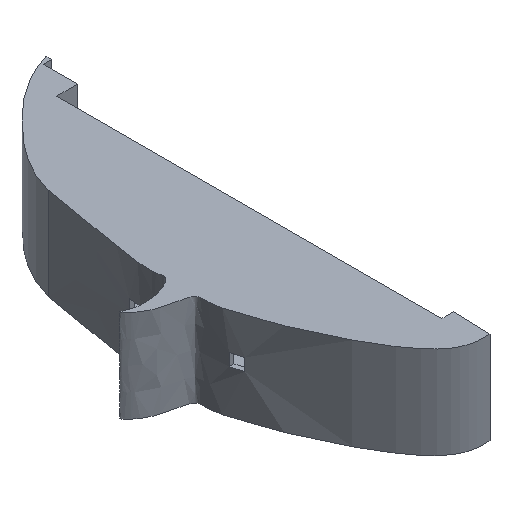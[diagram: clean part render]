
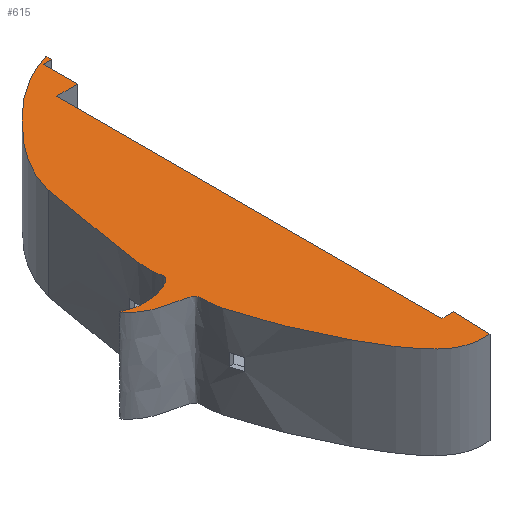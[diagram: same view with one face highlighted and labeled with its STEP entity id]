
A CAD part, isometric view. The second image highlights one B-rep face of the part: STEP entity #615.
In plain terms, the highlighted planar face has unit normal (0, 0, 1).
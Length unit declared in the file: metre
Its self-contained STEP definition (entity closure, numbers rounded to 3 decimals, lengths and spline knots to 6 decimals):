
#27=PLANE('',#659);
#60=LINE('',#1259,#125);
#61=LINE('',#1263,#126);
#65=LINE('',#1272,#130);
#68=LINE('',#1278,#133);
#71=LINE('',#1314,#136);
#74=LINE('',#1320,#139);
#81=LINE('',#1333,#146);
#125=VECTOR('',#700,1.);
#126=VECTOR('',#705,1.);
#130=VECTOR('',#711,1.);
#133=VECTOR('',#716,1.);
#136=VECTOR('',#723,1.);
#139=VECTOR('',#728,1.);
#146=VECTOR('',#739,1.);
#253=ORIENTED_EDGE('',*,*,#380,.T.);
#254=ORIENTED_EDGE('',*,*,#384,.T.);
#255=ORIENTED_EDGE('',*,*,#387,.T.);
#256=ORIENTED_EDGE('',*,*,#390,.F.);
#257=ORIENTED_EDGE('',*,*,#352,.F.);
#258=ORIENTED_EDGE('',*,*,#393,.T.);
#259=ORIENTED_EDGE('',*,*,#396,.T.);
#260=ORIENTED_EDGE('',*,*,#378,.T.);
#261=ORIENTED_EDGE('',*,*,#403,.T.);
#352=EDGE_CURVE('',#439,#440,#495,.T.);
#378=EDGE_CURVE('',#462,#464,#60,.T.);
#380=EDGE_CURVE('',#466,#467,#61,.T.);
#384=EDGE_CURVE('',#467,#470,#65,.T.);
#387=EDGE_CURVE('',#470,#472,#68,.T.);
#390=EDGE_CURVE('',#440,#472,#507,.T.);
#393=EDGE_CURVE('',#439,#475,#71,.T.);
#396=EDGE_CURVE('',#475,#462,#74,.T.);
#403=EDGE_CURVE('',#464,#466,#81,.T.);
#439=VERTEX_POINT('',#951);
#440=VERTEX_POINT('',#952);
#462=VERTEX_POINT('',#1254);
#464=VERTEX_POINT('',#1258);
#466=VERTEX_POINT('',#1264);
#467=VERTEX_POINT('',#1265);
#470=VERTEX_POINT('',#1273);
#472=VERTEX_POINT('',#1279);
#475=VERTEX_POINT('',#1315);
#495=B_SPLINE_CURVE_WITH_KNOTS('',3,(#938,#939,#940,#941,#942,#943,#944,
#945,#946,#947,#948,#949,#950),.UNSPECIFIED.,.F.,.F.,(4,1,1,1,1,1,1,1,1,
1,4),(0.,0.053528,0.154739,0.360239,0.429805,
0.526428,0.601218,0.664132,0.765139,
0.816605,1.),.UNSPECIFIED.);
#507=B_SPLINE_CURVE_WITH_KNOTS('',3,(#1301,#1302,#1303,#1304,#1305),
 .UNSPECIFIED.,.F.,.F.,(4,1,4),(0.,0.480204,1.),.UNSPECIFIED.);
#530=EDGE_LOOP('',(#253,#254,#255,#256,#257,#258,#259,#260,#261));
#573=FACE_BOUND('',#530,.T.);
#615=ADVANCED_FACE('',(#573),#27,.T.);
#659=AXIS2_PLACEMENT_3D('',#1337,#744,#745);
#700=DIRECTION('',(0.,1.,0.));
#705=DIRECTION('',(0.,1.,0.));
#711=DIRECTION('',(1.,0.,0.));
#716=DIRECTION('',(0.,1.,0.));
#723=DIRECTION('',(0.037,0.999,0.));
#728=DIRECTION('',(-1.,0.,0.));
#739=DIRECTION('',(1.,0.,0.));
#744=DIRECTION('',(0.,0.,1.));
#745=DIRECTION('',(1.,0.,0.));
#938=CARTESIAN_POINT('',(0.012362,-0.058784,0.));
#939=CARTESIAN_POINT('',(0.010728,-0.058827,0.));
#940=CARTESIAN_POINT('',(0.007079,-0.059146,0.));
#941=CARTESIAN_POINT('',(-0.011617,-0.054754,0.));
#942=CARTESIAN_POINT('',(-0.039614,0.01036,0.));
#943=CARTESIAN_POINT('',(-0.03489,0.021199,0.));
#944=CARTESIAN_POINT('',(-0.052511,0.021363,0.));
#945=CARTESIAN_POINT('',(-0.062241,0.032095,0.));
#946=CARTESIAN_POINT('',(-0.052787,0.025475,0.));
#947=CARTESIAN_POINT('',(-0.034839,0.030834,0.));
#948=CARTESIAN_POINT('',(-0.038976,0.039015,0.));
#949=CARTESIAN_POINT('',(-0.034888,0.056355,0.));
#950=CARTESIAN_POINT('',(-0.029284,0.090782,0.));
#951=CARTESIAN_POINT('',(0.012362,-0.058784,0.));
#952=CARTESIAN_POINT('',(-0.029284,0.090782,0.));
#1254=CARTESIAN_POINT('',(0.007774,-0.042523,0.));
#1258=CARTESIAN_POINT('',(0.007774,0.124238,0.));
#1259=CARTESIAN_POINT('',(0.007774,0.040857,0.));
#1263=CARTESIAN_POINT('',(0.016829,0.131632,0.));
#1264=CARTESIAN_POINT('',(0.016829,0.124238,0.));
#1265=CARTESIAN_POINT('',(0.016829,0.139026,0.));
#1272=CARTESIAN_POINT('',(0.018589,0.139026,0.));
#1273=CARTESIAN_POINT('',(0.02035,0.139026,0.));
#1278=CARTESIAN_POINT('',(0.02035,0.14027,0.));
#1279=CARTESIAN_POINT('',(0.02035,0.141514,0.));
#1301=CARTESIAN_POINT('',(-0.029284,0.090782,0.));
#1302=CARTESIAN_POINT('',(-0.026087,0.102817,0.));
#1303=CARTESIAN_POINT('',(-0.012727,0.120167,0.));
#1304=CARTESIAN_POINT('',(0.006224,0.137075,0.));
#1305=CARTESIAN_POINT('',(0.02035,0.141514,0.));
#1314=CARTESIAN_POINT('',(0.012666,-0.050653,0.));
#1315=CARTESIAN_POINT('',(0.012969,-0.042523,0.));
#1320=CARTESIAN_POINT('',(0.010372,-0.042523,0.));
#1333=CARTESIAN_POINT('',(0.012302,0.124238,0.));
#1337=CARTESIAN_POINT('',(-0.019592,0.041322,0.));
